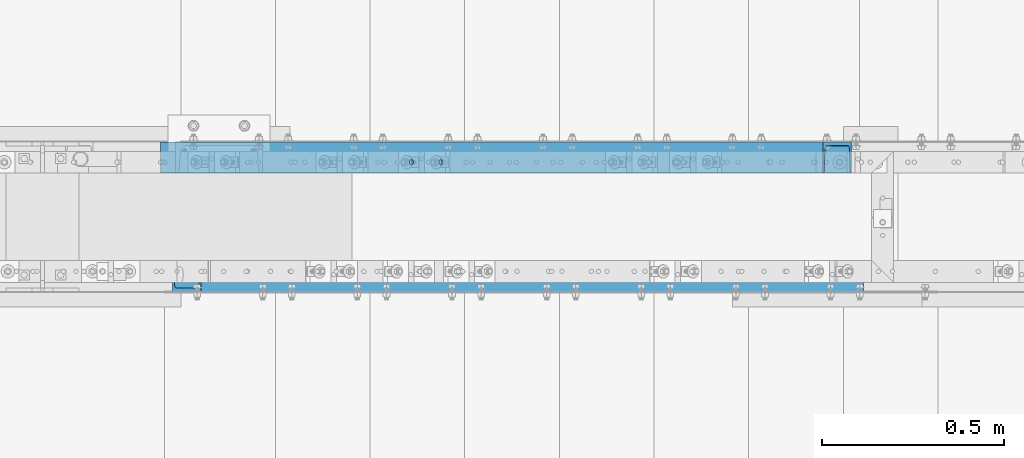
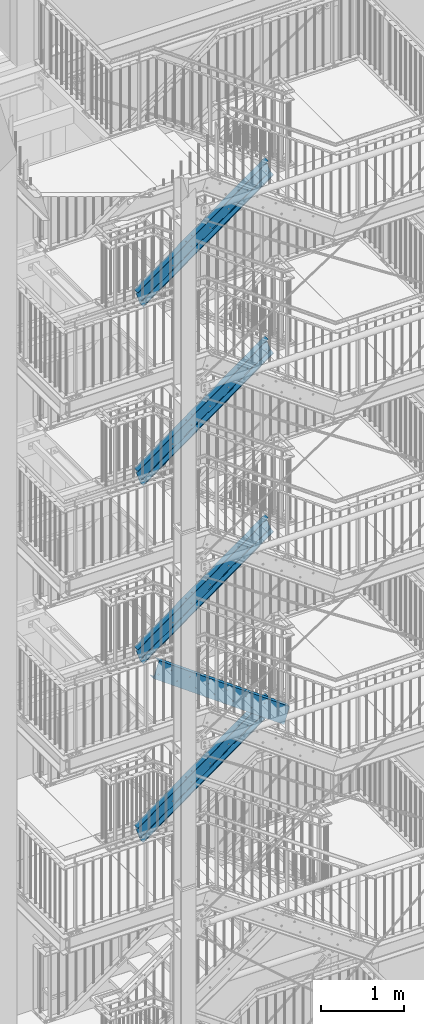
# One storey, part 123 of 831: 5 members, 72 openings.
"""IFC2X3 building model written with IfcOpenShell, lengths in millimetres."""

from ifc_helpers import new_model, entity, si_unit, converted_unit, frame, frame_2d, origin, origin_with_axes, origin_2d_with_axis, place, context, project, spatial, circle, u_section, extrude, clip, halfspace, material, element, save


model = new_model("IFC2X3")

# Units and contexts
model_context = context("Model", 3, precision=1e-09, world=origin_with_axes())
ifc_project = project(units=[si_unit("LENGTHUNIT", "METRE", prefix="MILLI"), si_unit("AREAUNIT", "SQUARE_METRE"), si_unit("VOLUMEUNIT", "CUBIC_METRE"), converted_unit("PLANEANGLEUNIT", "DEGREE", entity("IfcPlaneAngleMeasure", 0.01745329), si_unit("PLANEANGLEUNIT", "RADIAN"), dimensions=[0, 0, 0, 0, 0, 0, 0])], contexts=[model_context])

# Site, building, storey
site_placement = place(None, origin_with_axes())
site = spatial("IfcSite", under=ifc_project, at=site_placement, Name="Site", CompositionType="ELEMENT")
building_placement = place(site_placement, origin_with_axes())
building = spatial("IfcBuilding", under=site, at=building_placement, Name="Struktur 1", CompositionType="ELEMENT")
storey_placement = place(building_placement, origin_with_axes())
storey = spatial("IfcBuildingStorey", under=building, at=storey_placement, Name="Default Storey", CompositionType="ELEMENT", Elevation=0.0)

# Member, openings
ifc_material = material(Name="S235JR")
member_1_placement = place(None, frame((7252.357329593, 5759.036971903, 8386.450295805), z_axis=(0.810350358, 0.0, -0.585945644), x_axis=(0.0, 1.0, 0.0)))
member_1 = element("IfcMember", 1, at=member_1_placement, inside=storey, material=ifc_material, Name="Stringer#2", ObjectType="Stringer#2", context=model_context, shape_type="Clipping", body=[
    clip(clip(extrude(u_section(Depth=240.0, FlangeWidth=85.0, WebThickness=9.5, FlangeThickness=13.0, FilletRadius=13.0, EdgeRadius=6.5, FlangeSlope=4.574, at=frame_2d((20.2, 0.0))), origin(), (0.0, 0.0, -1.0), 2765.811710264), halfspace(frame((-5759.036971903, -9780.725399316, 2944.574754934), z_axis=(0.0, -0.307936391, -0.951406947), x_axis=(-1.0, 0.0, 0.0)), True)), halfspace(frame((-5759.036971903, -10438.724783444, 911.605598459), z_axis=(0.0, 0.307936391, 0.951406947), x_axis=(1.0, 0.0, 0.0)), True)),
])
opening_1_placement = place(member_1_placement, frame((-22.8, -50.547583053, -1111.89657849), z_axis=(1.0, 0.0, 0.0), x_axis=(0.0, -0.585945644, -0.810350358)))
element("IfcOpeningElement", 2, at=opening_1_placement, cuts=member_1, ObjectType="Opening", context=model_context, shape_type="SweptSolid", body=[
    extrude(circle(Radius=7.001, at=origin_2d_with_axis()), origin(), (0.0, 0.0, 1.0), 10.5),
])
opening_2_placement = place(member_1_placement, frame((-22.8, 54.922632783, -1928.580136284), z_axis=(1.0, 0.0, 0.0), x_axis=(0.0, -0.585945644, -0.810350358)))
element("IfcOpeningElement", 3, at=opening_2_placement, cuts=member_1, ObjectType="Opening", context=model_context, shape_type="SweptSolid", body=[
    extrude(circle(Radius=7.001, at=origin_2d_with_axis()), origin(), (0.0, 0.0, 1.0), 10.5),
])
opening_3_placement = place(member_1_placement, frame((-22.8, 54.922632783, -645.184639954), z_axis=(1.0, 0.0, 0.0), x_axis=(0.0, -0.585945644, -0.810350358)))
element("IfcOpeningElement", 4, at=opening_3_placement, cuts=member_1, ObjectType="Opening", context=model_context, shape_type="SweptSolid", body=[
    extrude(circle(Radius=7.001, at=origin_2d_with_axis()), origin(), (0.0, 0.0, 1.0), 10.5),
])
opening_4_placement = place(member_1_placement, frame((-22.8, 54.922632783, -2249.429010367), z_axis=(1.0, 0.0, 0.0), x_axis=(0.0, -0.585945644, -0.810350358)))
element("IfcOpeningElement", 5, at=opening_4_placement, cuts=member_1, ObjectType="Opening", context=model_context, shape_type="SweptSolid", body=[
    extrude(circle(Radius=7.001, at=origin_2d_with_axis()), origin(), (0.0, 0.0, 1.0), 10.5),
])
opening_5_placement = place(member_1_placement, frame((-22.8, -50.547583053, -1753.594326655), z_axis=(1.0, 0.0, 0.0), x_axis=(0.0, -0.585945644, -0.810350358)))
element("IfcOpeningElement", 6, at=opening_5_placement, cuts=member_1, ObjectType="Opening", context=model_context, shape_type="SweptSolid", body=[
    extrude(circle(Radius=7.001, at=origin_2d_with_axis()), origin(), (0.0, 0.0, 1.0), 10.5),
])
opening_6_placement = place(member_1_placement, frame((-22.8, -50.547583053, -2395.29207482), z_axis=(1.0, 0.0, 0.0), x_axis=(0.0, -0.585945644, -0.810350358)))
element("IfcOpeningElement", 7, at=opening_6_placement, cuts=member_1, ObjectType="Opening", context=model_context, shape_type="SweptSolid", body=[
    extrude(circle(Radius=7.001, at=origin_2d_with_axis()), origin(), (0.0, 0.0, 1.0), 10.5),
])
opening_7_placement = place(member_1_placement, frame((-22.8, -50.547583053, -791.047704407), z_axis=(1.0, 0.0, 0.0), x_axis=(0.0, -0.585945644, -0.810350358)))
element("IfcOpeningElement", 8, at=opening_7_placement, cuts=member_1, ObjectType="Opening", context=model_context, shape_type="SweptSolid", body=[
    extrude(circle(Radius=7.001, at=origin_2d_with_axis()), origin(), (0.0, 0.0, 1.0), 10.5),
])
opening_8_placement = place(member_1_placement, frame((-22.8, 54.922632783, -966.033514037), z_axis=(1.0, 0.0, 0.0), x_axis=(0.0, -0.585945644, -0.810350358)))
element("IfcOpeningElement", 9, at=opening_8_placement, cuts=member_1, ObjectType="Opening", context=model_context, shape_type="SweptSolid", body=[
    extrude(circle(Radius=7.001, at=origin_2d_with_axis()), origin(), (0.0, 0.0, 1.0), 10.5),
])
opening_9_placement = place(member_1_placement, frame((-22.8, -50.547583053, -1432.745452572), z_axis=(1.0, 0.0, 0.0), x_axis=(0.0, -0.585945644, -0.810350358)))
element("IfcOpeningElement", 10, at=opening_9_placement, cuts=member_1, ObjectType="Opening", context=model_context, shape_type="SweptSolid", body=[
    extrude(circle(Radius=7.001, at=origin_2d_with_axis()), origin(), (0.0, 0.0, 1.0), 10.5),
])
opening_10_placement = place(member_1_placement, frame((-22.8, -50.547583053, -2074.443200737), z_axis=(1.0, 0.0, 0.0), x_axis=(0.0, -0.585945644, -0.810350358)))
element("IfcOpeningElement", 11, at=opening_10_placement, cuts=member_1, ObjectType="Opening", context=model_context, shape_type="SweptSolid", body=[
    extrude(circle(Radius=7.001, at=origin_2d_with_axis()), origin(), (0.0, 0.0, 1.0), 10.5),
])
opening_11_placement = place(member_1_placement, frame((-22.8, 54.922632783, -1286.882388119), z_axis=(1.0, 0.0, 0.0), x_axis=(0.0, -0.585945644, -0.810350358)))
element("IfcOpeningElement", 12, at=opening_11_placement, cuts=member_1, ObjectType="Opening", context=model_context, shape_type="SweptSolid", body=[
    extrude(circle(Radius=7.001, at=origin_2d_with_axis()), origin(), (0.0, 0.0, 1.0), 10.5),
])
opening_12_placement = place(member_1_placement, frame((-22.8, 54.922632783, -1607.731262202), z_axis=(1.0, 0.0, 0.0), x_axis=(0.0, -0.585945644, -0.810350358)))
element("IfcOpeningElement", 13, at=opening_12_placement, cuts=member_1, ObjectType="Opening", context=model_context, shape_type="SweptSolid", body=[
    extrude(circle(Radius=7.001, at=origin_2d_with_axis()), origin(), (0.0, 0.0, 1.0), 10.5),
])
opening_13_placement = place(member_1_placement, frame((32.7, 120.5, -422.650824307), z_axis=(0.0, 1.0, 0.0), x_axis=(-1.0, 0.0, 0.0)))
element("IfcOpeningElement", 14, at=opening_13_placement, cuts=member_1, ObjectType="Opening", context=model_context, shape_type="SweptSolid", body=[
    extrude(circle(Radius=7.001, at=frame_2d((0.0, -7.001), x_axis=(1.0, 0.0))), origin(), (0.0, 0.0, -1.0), 14.0),
])
opening_14_placement = place(member_1_placement, frame((32.7, 120.5, -322.650824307), z_axis=(0.0, 1.0, 0.0), x_axis=(-1.0, 0.0, 0.0)))
element("IfcOpeningElement", 15, at=opening_14_placement, cuts=member_1, ObjectType="Opening", context=model_context, shape_type="SweptSolid", body=[
    extrude(circle(Radius=7.001, at=frame_2d((0.0, -7.001), x_axis=(1.0, 0.0))), origin(), (0.0, 0.0, -1.0), 14.0),
])
opening_15_placement = place(member_1_placement, frame((32.7, 120.5, -1851.045948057), z_axis=(0.0, 1.0, 0.0), x_axis=(-1.0, 0.0, 0.0)))
element("IfcOpeningElement", 16, at=opening_15_placement, cuts=member_1, ObjectType="Opening", context=model_context, shape_type="SweptSolid", body=[
    extrude(circle(Radius=7.001, at=frame_2d((0.0, -7.001), x_axis=(1.0, 0.0))), origin(), (0.0, 0.0, -1.0), 14.0),
])
opening_16_placement = place(member_1_placement, frame((32.7, 120.5, -1751.045948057), z_axis=(0.0, 1.0, 0.0), x_axis=(-1.0, 0.0, 0.0)))
element("IfcOpeningElement", 17, at=opening_16_placement, cuts=member_1, ObjectType="Opening", context=model_context, shape_type="SweptSolid", body=[
    extrude(circle(Radius=7.001, at=frame_2d((0.0, -7.001), x_axis=(1.0, 0.0))), origin(), (0.0, 0.0, -1.0), 14.0),
])

member_2_placement = place(None, frame((5040.769761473, 6124.436971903, 9702.599256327), z_axis=(-0.810878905, 0.0, -0.585213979), x_axis=(0.0, -1.0, 0.0)))
member_2 = element("IfcMember", 18, at=member_2_placement, inside=storey, material=ifc_material, Name="Stringer#2", ObjectType="Stringer#2", context=model_context, shape_type="Clipping", body=[
    clip(clip(extrude(u_section(Depth=240.0, FlangeWidth=85.0, WebThickness=9.5, FlangeThickness=13.0, FilletRadius=13.0, EdgeRadius=6.5, FlangeSlope=4.574, at=frame_2d((20.2, 0.0))), origin(), (0.0, 0.0, -1.0), 2764.271887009), halfspace(frame((6124.436971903, -8031.601758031, 129.944247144), z_axis=(0.0, 0.307506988, 0.951545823), x_axis=(1.0, 0.0, 0.0)), True)), halfspace(frame((6124.436971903, -7374.852372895, 2162.18142843), z_axis=(0.0, -0.307506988, -0.951545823), x_axis=(-1.0, 0.0, 0.0)), True)),
])
opening_17_placement = place(member_2_placement, frame((-22.8, -50.419344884, -791.0398607), z_axis=(1.0, 0.0, 0.0), x_axis=(0.0, -0.585213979, -0.810878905)))
element("IfcOpeningElement", 19, at=opening_17_placement, cuts=member_2, ObjectType="Opening", context=model_context, shape_type="SweptSolid", body=[
    extrude(circle(Radius=7.001, at=origin_2d_with_axis()), origin(), (0.0, 0.0, 1.0), 10.5),
])
opening_18_placement = place(member_2_placement, frame((-22.8, -50.419345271, -2394.23855254), z_axis=(1.0, 0.0, 0.0), x_axis=(0.0, -0.585213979, -0.810878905)))
element("IfcOpeningElement", 20, at=opening_18_placement, cuts=member_2, ObjectType="Opening", context=model_context, shape_type="SweptSolid", body=[
    extrude(circle(Radius=7.001, at=origin_2d_with_axis()), origin(), (0.0, 0.0, 1.0), 10.5),
])
opening_19_placement = place(member_2_placement, frame((-22.8, 54.919171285, -965.721396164), z_axis=(1.0, 0.0, 0.0), x_axis=(0.0, -0.585213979, -0.810878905)))
element("IfcOpeningElement", 21, at=opening_19_placement, cuts=member_2, ObjectType="Opening", context=model_context, shape_type="SweptSolid", body=[
    extrude(circle(Radius=7.001, at=origin_2d_with_axis()), origin(), (0.0, 0.0, 1.0), 10.5),
])
opening_20_placement = place(member_2_placement, frame((-22.8, -50.419345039, -1432.319337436), z_axis=(1.0, 0.0, 0.0), x_axis=(0.0, -0.585213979, -0.810878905)))
element("IfcOpeningElement", 22, at=opening_20_placement, cuts=member_2, ObjectType="Opening", context=model_context, shape_type="SweptSolid", body=[
    extrude(circle(Radius=7.001, at=origin_2d_with_axis()), origin(), (0.0, 0.0, 1.0), 10.5),
])
opening_21_placement = place(member_2_placement, frame((-22.8, 54.919170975, -2248.280349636), z_axis=(1.0, 0.0, 0.0), x_axis=(0.0, -0.585213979, -0.810878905)))
element("IfcOpeningElement", 23, at=opening_21_placement, cuts=member_2, ObjectType="Opening", context=model_context, shape_type="SweptSolid", body=[
    extrude(circle(Radius=7.001, at=origin_2d_with_axis()), origin(), (0.0, 0.0, 1.0), 10.5),
])
opening_22_placement = place(member_2_placement, frame((-22.8, -50.419345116, -1752.959075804), z_axis=(1.0, 0.0, 0.0), x_axis=(0.0, -0.585213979, -0.810878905)))
element("IfcOpeningElement", 24, at=opening_22_placement, cuts=member_2, ObjectType="Opening", context=model_context, shape_type="SweptSolid", body=[
    extrude(circle(Radius=7.001, at=origin_2d_with_axis()), origin(), (0.0, 0.0, 1.0), 10.5),
])
opening_23_placement = place(member_2_placement, frame((-22.8, 54.919171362, -645.081657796), z_axis=(1.0, 0.0, 0.0), x_axis=(0.0, -0.585213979, -0.810878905)))
element("IfcOpeningElement", 25, at=opening_23_placement, cuts=member_2, ObjectType="Opening", context=model_context, shape_type="SweptSolid", body=[
    extrude(circle(Radius=7.001, at=origin_2d_with_axis()), origin(), (0.0, 0.0, 1.0), 10.5),
])
opening_24_placement = place(member_2_placement, frame((-22.8, -50.419345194, -2073.598814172), z_axis=(1.0, 0.0, 0.0), x_axis=(0.0, -0.585213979, -0.810878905)))
element("IfcOpeningElement", 26, at=opening_24_placement, cuts=member_2, ObjectType="Opening", context=model_context, shape_type="SweptSolid", body=[
    extrude(circle(Radius=7.001, at=origin_2d_with_axis()), origin(), (0.0, 0.0, 1.0), 10.5),
])
opening_25_placement = place(member_2_placement, frame((-22.8, 54.919171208, -1286.361134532), z_axis=(1.0, 0.0, 0.0), x_axis=(0.0, -0.585213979, -0.810878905)))
element("IfcOpeningElement", 27, at=opening_25_placement, cuts=member_2, ObjectType="Opening", context=model_context, shape_type="SweptSolid", body=[
    extrude(circle(Radius=7.001, at=origin_2d_with_axis()), origin(), (0.0, 0.0, 1.0), 10.5),
])
opening_26_placement = place(member_2_placement, frame((-22.8, 54.919171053, -1927.640611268), z_axis=(1.0, 0.0, 0.0), x_axis=(0.0, -0.585213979, -0.810878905)))
element("IfcOpeningElement", 28, at=opening_26_placement, cuts=member_2, ObjectType="Opening", context=model_context, shape_type="SweptSolid", body=[
    extrude(circle(Radius=7.001, at=origin_2d_with_axis()), origin(), (0.0, 0.0, 1.0), 10.5),
])
opening_27_placement = place(member_2_placement, frame((-22.8, 54.91917113, -1607.0008729), z_axis=(1.0, 0.0, 0.0), x_axis=(0.0, -0.585213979, -0.810878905)))
element("IfcOpeningElement", 29, at=opening_27_placement, cuts=member_2, ObjectType="Opening", context=model_context, shape_type="SweptSolid", body=[
    extrude(circle(Radius=7.001, at=origin_2d_with_axis()), origin(), (0.0, 0.0, 1.0), 10.5),
])
opening_28_placement = place(member_2_placement, frame((-22.8, -50.419344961, -1111.679599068), z_axis=(1.0, 0.0, 0.0), x_axis=(0.0, -0.585213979, -0.810878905)))
element("IfcOpeningElement", 30, at=opening_28_placement, cuts=member_2, ObjectType="Opening", context=model_context, shape_type="SweptSolid", body=[
    extrude(circle(Radius=7.001, at=origin_2d_with_axis()), origin(), (0.0, 0.0, 1.0), 10.5),
])
opening_29_placement = place(member_2_placement, frame((32.7, 120.5, -1202.687748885), z_axis=(0.0, 1.0, 0.0), x_axis=(-1.0, 0.0, 0.0)))
element("IfcOpeningElement", 31, at=opening_29_placement, cuts=member_2, ObjectType="Opening", context=model_context, shape_type="SweptSolid", body=[
    extrude(circle(Radius=7.001, at=frame_2d((0.0, -7.001), x_axis=(1.0, 0.0))), origin(), (0.0, 0.0, -1.0), 14.0),
])
opening_30_placement = place(member_2_placement, frame((32.7, 120.5, -1102.687748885), z_axis=(0.0, 1.0, 0.0), x_axis=(-1.0, 0.0, 0.0)))
element("IfcOpeningElement", 32, at=opening_30_placement, cuts=member_2, ObjectType="Opening", context=model_context, shape_type="SweptSolid", body=[
    extrude(circle(Radius=7.001, at=frame_2d((0.0, -7.001), x_axis=(1.0, 0.0))), origin(), (0.0, 0.0, -1.0), 14.0),
])

member_3_placement = place(None, frame((5041.069476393, 6124.436971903, 7070.450295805), z_axis=(-0.810350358, 0.0, -0.585945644), x_axis=(0.0, -1.0, 0.0)))
member_3 = element("IfcMember", 33, at=member_3_placement, inside=storey, material=ifc_material, Name="Stringer#2", ObjectType="Stringer#2", context=model_context, shape_type="Clipping", body=[
    clip(clip(extrude(u_section(Depth=240.0, FlangeWidth=85.0, WebThickness=9.5, FlangeThickness=13.0, FilletRadius=13.0, EdgeRadius=6.5, FlangeSlope=4.574, at=frame_2d((20.2, 0.0))), origin(), (0.0, 0.0, -1.0), 2765.811710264), halfspace(frame((6124.436971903, -5645.874307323, -639.66863089), z_axis=(0.0, 0.307936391, 0.951406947), x_axis=(1.0, 0.0, 0.0)), True)), halfspace(frame((6124.436971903, -4987.874923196, 1393.300525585), z_axis=(0.0, -0.307936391, -0.951406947), x_axis=(-1.0, 0.0, 0.0)), True)),
])
opening_31_placement = place(member_3_placement, frame((-22.8, -50.547583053, -791.047704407), z_axis=(1.0, 0.0, 0.0), x_axis=(0.0, -0.585945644, -0.810350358)))
element("IfcOpeningElement", 34, at=opening_31_placement, cuts=member_3, ObjectType="Opening", context=model_context, shape_type="SweptSolid", body=[
    extrude(circle(Radius=7.001, at=origin_2d_with_axis()), origin(), (0.0, 0.0, 1.0), 10.5),
])
opening_32_placement = place(member_3_placement, frame((-22.8, -50.547583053, -1432.745452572), z_axis=(1.0, 0.0, 0.0), x_axis=(0.0, -0.585945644, -0.810350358)))
element("IfcOpeningElement", 35, at=opening_32_placement, cuts=member_3, ObjectType="Opening", context=model_context, shape_type="SweptSolid", body=[
    extrude(circle(Radius=7.001, at=origin_2d_with_axis()), origin(), (0.0, 0.0, 1.0), 10.5),
])
opening_33_placement = place(member_3_placement, frame((-22.8, 54.922632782, -966.033514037), z_axis=(1.0, 0.0, 0.0), x_axis=(0.0, -0.585945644, -0.810350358)))
element("IfcOpeningElement", 36, at=opening_33_placement, cuts=member_3, ObjectType="Opening", context=model_context, shape_type="SweptSolid", body=[
    extrude(circle(Radius=7.001, at=origin_2d_with_axis()), origin(), (0.0, 0.0, 1.0), 10.5),
])
opening_34_placement = place(member_3_placement, frame((-22.8, 54.922632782, -1607.731262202), z_axis=(1.0, 0.0, 0.0), x_axis=(0.0, -0.585945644, -0.810350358)))
element("IfcOpeningElement", 37, at=opening_34_placement, cuts=member_3, ObjectType="Opening", context=model_context, shape_type="SweptSolid", body=[
    extrude(circle(Radius=7.001, at=origin_2d_with_axis()), origin(), (0.0, 0.0, 1.0), 10.5),
])
opening_35_placement = place(member_3_placement, frame((-22.8, 54.922632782, -1928.580136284), z_axis=(1.0, 0.0, 0.0), x_axis=(0.0, -0.585945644, -0.810350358)))
element("IfcOpeningElement", 38, at=opening_35_placement, cuts=member_3, ObjectType="Opening", context=model_context, shape_type="SweptSolid", body=[
    extrude(circle(Radius=7.001, at=origin_2d_with_axis()), origin(), (0.0, 0.0, 1.0), 10.5),
])
opening_36_placement = place(member_3_placement, frame((-22.8, -50.547583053, -2395.29207482), z_axis=(1.0, 0.0, 0.0), x_axis=(0.0, -0.585945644, -0.810350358)))
element("IfcOpeningElement", 39, at=opening_36_placement, cuts=member_3, ObjectType="Opening", context=model_context, shape_type="SweptSolid", body=[
    extrude(circle(Radius=7.001, at=origin_2d_with_axis()), origin(), (0.0, 0.0, 1.0), 10.5),
])
opening_37_placement = place(member_3_placement, frame((-22.8, 54.922632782, -645.184639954), z_axis=(1.0, 0.0, 0.0), x_axis=(0.0, -0.585945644, -0.810350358)))
element("IfcOpeningElement", 40, at=opening_37_placement, cuts=member_3, ObjectType="Opening", context=model_context, shape_type="SweptSolid", body=[
    extrude(circle(Radius=7.001, at=origin_2d_with_axis()), origin(), (0.0, 0.0, 1.0), 10.5),
])
opening_38_placement = place(member_3_placement, frame((-22.8, 54.922632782, -1286.882388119), z_axis=(1.0, 0.0, 0.0), x_axis=(0.0, -0.585945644, -0.810350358)))
element("IfcOpeningElement", 41, at=opening_38_placement, cuts=member_3, ObjectType="Opening", context=model_context, shape_type="SweptSolid", body=[
    extrude(circle(Radius=7.001, at=origin_2d_with_axis()), origin(), (0.0, 0.0, 1.0), 10.5),
])
opening_39_placement = place(member_3_placement, frame((-22.8, -50.547583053, -2074.443200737), z_axis=(1.0, 0.0, 0.0), x_axis=(0.0, -0.585945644, -0.810350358)))
element("IfcOpeningElement", 42, at=opening_39_placement, cuts=member_3, ObjectType="Opening", context=model_context, shape_type="SweptSolid", body=[
    extrude(circle(Radius=7.001, at=origin_2d_with_axis()), origin(), (0.0, 0.0, 1.0), 10.5),
])
opening_40_placement = place(member_3_placement, frame((-22.8, -50.547583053, -1111.89657849), z_axis=(1.0, 0.0, 0.0), x_axis=(0.0, -0.585945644, -0.810350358)))
element("IfcOpeningElement", 43, at=opening_40_placement, cuts=member_3, ObjectType="Opening", context=model_context, shape_type="SweptSolid", body=[
    extrude(circle(Radius=7.001, at=origin_2d_with_axis()), origin(), (0.0, 0.0, 1.0), 10.5),
])
opening_41_placement = place(member_3_placement, frame((-22.8, -50.547583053, -1753.594326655), z_axis=(1.0, 0.0, 0.0), x_axis=(0.0, -0.585945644, -0.810350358)))
element("IfcOpeningElement", 44, at=opening_41_placement, cuts=member_3, ObjectType="Opening", context=model_context, shape_type="SweptSolid", body=[
    extrude(circle(Radius=7.001, at=origin_2d_with_axis()), origin(), (0.0, 0.0, 1.0), 10.5),
])
opening_42_placement = place(member_3_placement, frame((-22.8, 54.922632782, -2249.429010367), z_axis=(1.0, 0.0, 0.0), x_axis=(0.0, -0.585945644, -0.810350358)))
element("IfcOpeningElement", 45, at=opening_42_placement, cuts=member_3, ObjectType="Opening", context=model_context, shape_type="SweptSolid", body=[
    extrude(circle(Radius=7.001, at=origin_2d_with_axis()), origin(), (0.0, 0.0, 1.0), 10.5),
])
opening_43_placement = place(member_3_placement, frame((32.7, 120.5, -1203.179263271), z_axis=(0.0, 1.0, 0.0), x_axis=(-1.0, 0.0, 0.0)))
element("IfcOpeningElement", 46, at=opening_43_placement, cuts=member_3, ObjectType="Opening", context=model_context, shape_type="SweptSolid", body=[
    extrude(circle(Radius=7.001, at=frame_2d((0.0, -7.001), x_axis=(1.0, 0.0))), origin(), (0.0, 0.0, -1.0), 14.0),
])
opening_44_placement = place(member_3_placement, frame((32.7, 120.5, -1103.179263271), z_axis=(0.0, 1.0, 0.0), x_axis=(-1.0, 0.0, 0.0)))
element("IfcOpeningElement", 47, at=opening_44_placement, cuts=member_3, ObjectType="Opening", context=model_context, shape_type="SweptSolid", body=[
    extrude(circle(Radius=7.001, at=frame_2d((0.0, -7.001), x_axis=(1.0, 0.0))), origin(), (0.0, 0.0, -1.0), 14.0),
])

member_4_placement = place(None, frame((5041.249041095, 6124.436971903, 12329.361065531), z_axis=(-0.810033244, 0.0, -0.586383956), x_axis=(0.0, -1.0, 0.0)))
member_4 = element("IfcMember", 48, at=member_4_placement, inside=storey, material=ifc_material, Name="Stringer#2", ObjectType="Stringer#2", context=model_context, shape_type="Clipping", body=[
    clip(clip(extrude(u_section(Depth=240.0, FlangeWidth=85.0, WebThickness=9.5, FlangeThickness=13.0, FilletRadius=13.0, EdgeRadius=6.5, FlangeSlope=4.574, at=frame_2d((20.2, 0.0))), origin(), (0.0, 0.0, -1.0), 2766.736495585), halfspace(frame((6124.436971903, -10403.792085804, 902.542281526), z_axis=(0.0, 0.308193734, 0.951323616), x_axis=(1.0, 0.0, 0.0)), True)), halfspace(frame((6124.436971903, -9745.042702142, 2935.951061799), z_axis=(0.0, -0.308193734, -0.951323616), x_axis=(-1.0, 0.0, 0.0)), True)),
])
opening_45_placement = place(member_4_placement, frame((-22.8, 54.924733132, -2250.119186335), z_axis=(1.0, 0.0, 0.0), x_axis=(0.0, -0.586383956, -0.810033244)))
element("IfcOpeningElement", 49, at=opening_45_placement, cuts=member_4, ObjectType="Opening", context=model_context, shape_type="SweptSolid", body=[
    extrude(circle(Radius=7.001, at=origin_2d_with_axis()), origin(), (0.0, 0.0, 1.0), 10.5),
])
opening_46_placement = place(member_4_placement, frame((-22.8, -50.624378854, -2074.950689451), z_axis=(1.0, 0.0, 0.0), x_axis=(0.0, -0.586383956, -0.810033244)))
element("IfcOpeningElement", 50, at=opening_46_placement, cuts=member_4, ObjectType="Opening", context=model_context, shape_type="SweptSolid", body=[
    extrude(circle(Radius=7.001, at=origin_2d_with_axis()), origin(), (0.0, 0.0, 1.0), 10.5),
])
opening_47_placement = place(member_4_placement, frame((-22.8, 54.924733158, -1929.144705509), z_axis=(1.0, 0.0, 0.0), x_axis=(0.0, -0.586383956, -0.810033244)))
element("IfcOpeningElement", 51, at=opening_47_placement, cuts=member_4, ObjectType="Opening", context=model_context, shape_type="SweptSolid", body=[
    extrude(circle(Radius=7.001, at=origin_2d_with_axis()), origin(), (0.0, 0.0, 1.0), 10.5),
])
opening_48_placement = place(member_4_placement, frame((-22.8, -50.62437875, -791.052766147), z_axis=(1.0, 0.0, 0.0), x_axis=(0.0, -0.586383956, -0.810033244)))
element("IfcOpeningElement", 52, at=opening_48_placement, cuts=member_4, ObjectType="Opening", context=model_context, shape_type="SweptSolid", body=[
    extrude(circle(Radius=7.001, at=origin_2d_with_axis()), origin(), (0.0, 0.0, 1.0), 10.5),
])
opening_49_placement = place(member_4_placement, frame((-22.8, -50.624378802, -1433.001727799), z_axis=(1.0, 0.0, 0.0), x_axis=(0.0, -0.586383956, -0.810033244)))
element("IfcOpeningElement", 53, at=opening_49_placement, cuts=member_4, ObjectType="Opening", context=model_context, shape_type="SweptSolid", body=[
    extrude(circle(Radius=7.001, at=origin_2d_with_axis()), origin(), (0.0, 0.0, 1.0), 10.5),
])
opening_50_placement = place(member_4_placement, frame((-22.8, -50.62437888, -2395.925170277), z_axis=(1.0, 0.0, 0.0), x_axis=(0.0, -0.586383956, -0.810033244)))
element("IfcOpeningElement", 54, at=opening_50_placement, cuts=member_4, ObjectType="Opening", context=model_context, shape_type="SweptSolid", body=[
    extrude(circle(Radius=7.001, at=origin_2d_with_axis()), origin(), (0.0, 0.0, 1.0), 10.5),
])
opening_51_placement = place(member_4_placement, frame((-22.8, 54.92473321, -1287.195743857), z_axis=(1.0, 0.0, 0.0), x_axis=(0.0, -0.586383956, -0.810033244)))
element("IfcOpeningElement", 55, at=opening_51_placement, cuts=member_4, ObjectType="Opening", context=model_context, shape_type="SweptSolid", body=[
    extrude(circle(Radius=7.001, at=origin_2d_with_axis()), origin(), (0.0, 0.0, 1.0), 10.5),
])
opening_52_placement = place(member_4_placement, frame((-22.8, 54.924733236, -966.221263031), z_axis=(1.0, 0.0, 0.0), x_axis=(0.0, -0.586383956, -0.810033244)))
element("IfcOpeningElement", 56, at=opening_52_placement, cuts=member_4, ObjectType="Opening", context=model_context, shape_type="SweptSolid", body=[
    extrude(circle(Radius=7.001, at=origin_2d_with_axis()), origin(), (0.0, 0.0, 1.0), 10.5),
])
opening_53_placement = place(member_4_placement, frame((-22.8, 54.924733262, -645.246782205), z_axis=(1.0, 0.0, 0.0), x_axis=(0.0, -0.586383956, -0.810033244)))
element("IfcOpeningElement", 57, at=opening_53_placement, cuts=member_4, ObjectType="Opening", context=model_context, shape_type="SweptSolid", body=[
    extrude(circle(Radius=7.001, at=origin_2d_with_axis()), origin(), (0.0, 0.0, 1.0), 10.5),
])
opening_54_placement = place(member_4_placement, frame((-22.8, 54.924733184, -1608.170224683), z_axis=(1.0, 0.0, 0.0), x_axis=(0.0, -0.586383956, -0.810033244)))
element("IfcOpeningElement", 58, at=opening_54_placement, cuts=member_4, ObjectType="Opening", context=model_context, shape_type="SweptSolid", body=[
    extrude(circle(Radius=7.001, at=origin_2d_with_axis()), origin(), (0.0, 0.0, 1.0), 10.5),
])
opening_55_placement = place(member_4_placement, frame((-22.8, -50.624378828, -1753.976208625), z_axis=(1.0, 0.0, 0.0), x_axis=(0.0, -0.586383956, -0.810033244)))
element("IfcOpeningElement", 59, at=opening_55_placement, cuts=member_4, ObjectType="Opening", context=model_context, shape_type="SweptSolid", body=[
    extrude(circle(Radius=7.001, at=origin_2d_with_axis()), origin(), (0.0, 0.0, 1.0), 10.5),
])
opening_56_placement = place(member_4_placement, frame((-22.8, -50.624378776, -1112.027246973), z_axis=(1.0, 0.0, 0.0), x_axis=(0.0, -0.586383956, -0.810033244)))
element("IfcOpeningElement", 60, at=opening_56_placement, cuts=member_4, ObjectType="Opening", context=model_context, shape_type="SweptSolid", body=[
    extrude(circle(Radius=7.001, at=origin_2d_with_axis()), origin(), (0.0, 0.0, 1.0), 10.5),
])
opening_57_placement = place(member_4_placement, frame((32.7, 120.5, -1203.47468402), z_axis=(0.0, 1.0, 0.0), x_axis=(-1.0, 0.0, 0.0)))
element("IfcOpeningElement", 61, at=opening_57_placement, cuts=member_4, ObjectType="Opening", context=model_context, shape_type="SweptSolid", body=[
    extrude(circle(Radius=7.001, at=frame_2d((0.0, -7.001), x_axis=(1.0, 0.0))), origin(), (0.0, 0.0, -1.0), 14.0),
])
opening_58_placement = place(member_4_placement, frame((32.7, 120.5, -1103.47468402), z_axis=(0.0, 1.0, 0.0), x_axis=(-1.0, 0.0, 0.0)))
element("IfcOpeningElement", 62, at=opening_58_placement, cuts=member_4, ObjectType="Opening", context=model_context, shape_type="SweptSolid", body=[
    extrude(circle(Radius=7.001, at=frame_2d((0.0, -7.001), x_axis=(1.0, 0.0))), origin(), (0.0, 0.0, -1.0), 14.0),
])

member_5_placement = place(None, frame((5040.349232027, 6124.436971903, 14964.808313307), z_axis=(-0.811618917, 0.0, -0.584187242), x_axis=(0.0, -1.0, 0.0)))
member_5 = element("IfcMember", 63, at=member_5_placement, inside=storey, material=ifc_material, Name="Stringer#2", ObjectType="Stringer#2", context=model_context, shape_type="Clipping", body=[
    clip(clip(extrude(u_section(Depth=240.0, FlangeWidth=85.0, WebThickness=9.5, FlangeThickness=13.0, FilletRadius=13.0, EdgeRadius=6.5, FlangeSlope=4.574, at=frame_2d((20.2, 0.0))), origin(), (0.0, 0.0, -1.0), 2762.119261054), halfspace(frame((6124.436971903, -12802.606591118, 1664.839205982), z_axis=(0.0, 0.306904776, 0.951740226), x_axis=(1.0, 0.0, 0.0)), True)), halfspace(frame((6124.436971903, -12147.607204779, 3696.053161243), z_axis=(0.0, -0.306904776, -0.951740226), x_axis=(-1.0, 0.0, 0.0)), True)),
])
opening_59_placement = place(member_5_placement, frame((-22.8, -50.239297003, -1752.072290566), z_axis=(1.0, 0.0, 0.0), x_axis=(0.0, -0.584187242, -0.811618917)))
element("IfcOpeningElement", 64, at=opening_59_placement, cuts=member_5, ObjectType="Opening", context=model_context, shape_type="SweptSolid", body=[
    extrude(circle(Radius=7.001, at=origin_2d_with_axis()), origin(), (0.0, 0.0, 1.0), 10.5),
])
opening_60_placement = place(member_5_placement, frame((-22.8, 54.914406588, -965.286109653), z_axis=(1.0, 0.0, 0.0), x_axis=(0.0, -0.584187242, -0.811618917)))
element("IfcOpeningElement", 65, at=opening_60_placement, cuts=member_5, ObjectType="Opening", context=model_context, shape_type="SweptSolid", body=[
    extrude(circle(Radius=7.001, at=origin_2d_with_axis()), origin(), (0.0, 0.0, 1.0), 10.5),
])
opening_61_placement = place(member_5_placement, frame((-22.8, 54.914406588, -1605.980885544), z_axis=(1.0, 0.0, 0.0), x_axis=(0.0, -0.584187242, -0.811618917)))
element("IfcOpeningElement", 66, at=opening_61_placement, cuts=member_5, ObjectType="Opening", context=model_context, shape_type="SweptSolid", body=[
    extrude(circle(Radius=7.001, at=origin_2d_with_axis()), origin(), (0.0, 0.0, 1.0), 10.5),
])
opening_62_placement = place(member_5_placement, frame((-22.8, -50.239297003, -1431.72490262), z_axis=(1.0, 0.0, 0.0), x_axis=(0.0, -0.584187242, -0.811618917)))
element("IfcOpeningElement", 67, at=opening_62_placement, cuts=member_5, ObjectType="Opening", context=model_context, shape_type="SweptSolid", body=[
    extrude(circle(Radius=7.001, at=origin_2d_with_axis()), origin(), (0.0, 0.0, 1.0), 10.5),
])
opening_63_placement = place(member_5_placement, frame((-22.8, -50.239297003, -2392.767066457), z_axis=(1.0, 0.0, 0.0), x_axis=(0.0, -0.584187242, -0.811618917)))
element("IfcOpeningElement", 68, at=opening_63_placement, cuts=member_5, ObjectType="Opening", context=model_context, shape_type="SweptSolid", body=[
    extrude(circle(Radius=7.001, at=origin_2d_with_axis()), origin(), (0.0, 0.0, 1.0), 10.5),
])
opening_64_placement = place(member_5_placement, frame((-22.8, 54.914406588, -1926.32827349), z_axis=(1.0, 0.0, 0.0), x_axis=(0.0, -0.584187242, -0.811618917)))
element("IfcOpeningElement", 69, at=opening_64_placement, cuts=member_5, ObjectType="Opening", context=model_context, shape_type="SweptSolid", body=[
    extrude(circle(Radius=7.001, at=origin_2d_with_axis()), origin(), (0.0, 0.0, 1.0), 10.5),
])
opening_65_placement = place(member_5_placement, frame((-22.8, -50.239297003, -791.030126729), z_axis=(1.0, 0.0, 0.0), x_axis=(0.0, -0.584187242, -0.811618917)))
element("IfcOpeningElement", 70, at=opening_65_placement, cuts=member_5, ObjectType="Opening", context=model_context, shape_type="SweptSolid", body=[
    extrude(circle(Radius=7.001, at=origin_2d_with_axis()), origin(), (0.0, 0.0, 1.0), 10.5),
])
opening_66_placement = place(member_5_placement, frame((-22.8, -50.239297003, -1111.377514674), z_axis=(1.0, 0.0, 0.0), x_axis=(0.0, -0.584187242, -0.811618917)))
element("IfcOpeningElement", 71, at=opening_66_placement, cuts=member_5, ObjectType="Opening", context=model_context, shape_type="SweptSolid", body=[
    extrude(circle(Radius=7.001, at=origin_2d_with_axis()), origin(), (0.0, 0.0, 1.0), 10.5),
])
opening_67_placement = place(member_5_placement, frame((-22.8, -50.239297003, -2072.419678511), z_axis=(1.0, 0.0, 0.0), x_axis=(0.0, -0.584187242, -0.811618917)))
element("IfcOpeningElement", 72, at=opening_67_placement, cuts=member_5, ObjectType="Opening", context=model_context, shape_type="SweptSolid", body=[
    extrude(circle(Radius=7.001, at=origin_2d_with_axis()), origin(), (0.0, 0.0, 1.0), 10.5),
])
opening_68_placement = place(member_5_placement, frame((-22.8, 54.914406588, -644.938721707), z_axis=(1.0, 0.0, 0.0), x_axis=(0.0, -0.584187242, -0.811618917)))
element("IfcOpeningElement", 73, at=opening_68_placement, cuts=member_5, ObjectType="Opening", context=model_context, shape_type="SweptSolid", body=[
    extrude(circle(Radius=7.001, at=origin_2d_with_axis()), origin(), (0.0, 0.0, 1.0), 10.5),
])
opening_69_placement = place(member_5_placement, frame((-22.8, 54.914406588, -1285.633497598), z_axis=(1.0, 0.0, 0.0), x_axis=(0.0, -0.584187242, -0.811618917)))
element("IfcOpeningElement", 74, at=opening_69_placement, cuts=member_5, ObjectType="Opening", context=model_context, shape_type="SweptSolid", body=[
    extrude(circle(Radius=7.001, at=origin_2d_with_axis()), origin(), (0.0, 0.0, 1.0), 10.5),
])
opening_70_placement = place(member_5_placement, frame((-22.8, 54.914406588, -2246.675661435), z_axis=(1.0, 0.0, 0.0), x_axis=(0.0, -0.584187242, -0.811618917)))
element("IfcOpeningElement", 75, at=opening_70_placement, cuts=member_5, ObjectType="Opening", context=model_context, shape_type="SweptSolid", body=[
    extrude(circle(Radius=7.001, at=origin_2d_with_axis()), origin(), (0.0, 0.0, 1.0), 10.5),
])
opening_71_placement = place(member_5_placement, frame((32.7, 120.5, -1202.001427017), z_axis=(0.0, 1.0, 0.0), x_axis=(-1.0, 0.0, 0.0)))
element("IfcOpeningElement", 76, at=opening_71_placement, cuts=member_5, ObjectType="Opening", context=model_context, shape_type="SweptSolid", body=[
    extrude(circle(Radius=7.001, at=frame_2d((0.0, -7.001), x_axis=(1.0, 0.0))), origin(), (0.0, 0.0, -1.0), 14.0),
])
opening_72_placement = place(member_5_placement, frame((32.7, 120.5, -1102.001427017), z_axis=(0.0, 1.0, 0.0), x_axis=(-1.0, 0.0, 0.0)))
element("IfcOpeningElement", 77, at=opening_72_placement, cuts=member_5, ObjectType="Opening", context=model_context, shape_type="SweptSolid", body=[
    extrude(circle(Radius=7.001, at=frame_2d((0.0, -7.001), x_axis=(1.0, 0.0))), origin(), (0.0, 0.0, -1.0), 14.0),
])

save(model, "model.ifc")
